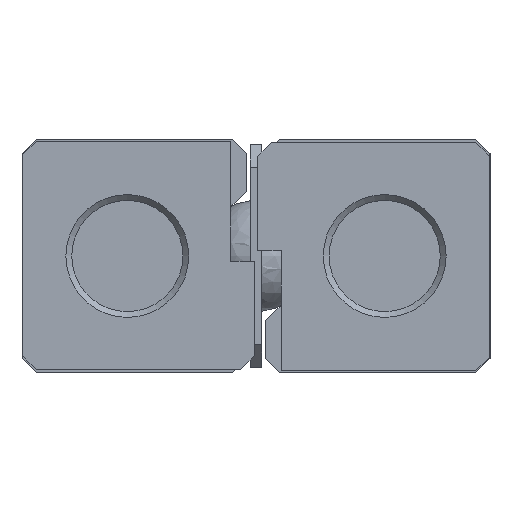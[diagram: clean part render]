
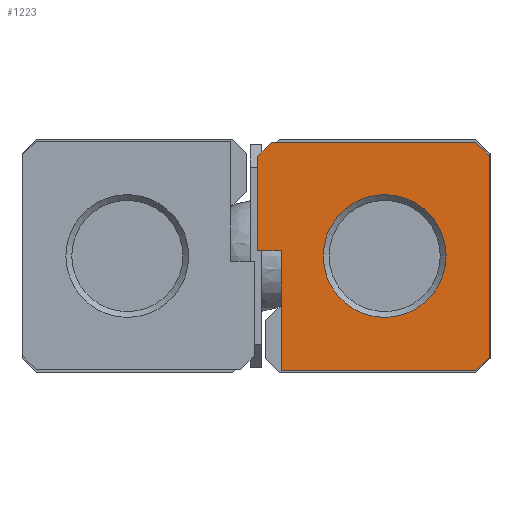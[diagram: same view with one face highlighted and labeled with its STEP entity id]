
A CAD part, left-side view. The second image highlights one B-rep face of the part: STEP entity #1223.
In plain terms, the highlighted planar face has unit normal (-1, 0, 0).
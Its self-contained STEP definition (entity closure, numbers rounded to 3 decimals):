
#68=CIRCLE('',#1333,5.25);
#229=ORIENTED_EDGE('',*,*,#486,.T.);
#230=ORIENTED_EDGE('',*,*,#468,.F.);
#231=ORIENTED_EDGE('',*,*,#485,.F.);
#232=ORIENTED_EDGE('',*,*,#483,.F.);
#233=ORIENTED_EDGE('',*,*,#481,.F.);
#234=ORIENTED_EDGE('',*,*,#479,.F.);
#235=ORIENTED_EDGE('',*,*,#477,.F.);
#236=ORIENTED_EDGE('',*,*,#475,.F.);
#237=ORIENTED_EDGE('',*,*,#473,.F.);
#238=ORIENTED_EDGE('',*,*,#471,.F.);
#468=EDGE_CURVE('',#609,#610,#733,.T.);
#471=EDGE_CURVE('',#610,#611,#736,.T.);
#473=EDGE_CURVE('',#611,#612,#738,.T.);
#475=EDGE_CURVE('',#612,#613,#740,.T.);
#477=EDGE_CURVE('',#613,#614,#742,.T.);
#479=EDGE_CURVE('',#614,#615,#744,.T.);
#481=EDGE_CURVE('',#615,#616,#746,.T.);
#483=EDGE_CURVE('',#616,#617,#748,.T.);
#485=EDGE_CURVE('',#617,#609,#750,.T.);
#486=EDGE_CURVE('',#618,#618,#68,.T.);
#609=VERTEX_POINT('',#1899);
#610=VERTEX_POINT('',#1900);
#611=VERTEX_POINT('',#1905);
#612=VERTEX_POINT('',#1909);
#613=VERTEX_POINT('',#1913);
#614=VERTEX_POINT('',#1917);
#615=VERTEX_POINT('',#1921);
#616=VERTEX_POINT('',#1925);
#617=VERTEX_POINT('',#1929);
#618=VERTEX_POINT('',#1935);
#733=LINE('',#1898,#852);
#736=LINE('',#1904,#855);
#738=LINE('',#1908,#857);
#740=LINE('',#1912,#859);
#742=LINE('',#1916,#861);
#744=LINE('',#1920,#863);
#746=LINE('',#1924,#865);
#748=LINE('',#1928,#867);
#750=LINE('',#1932,#869);
#852=VECTOR('',#1517,1000.);
#855=VECTOR('',#1522,1000.);
#857=VECTOR('',#1526,1000.);
#859=VECTOR('',#1530,1000.);
#861=VECTOR('',#1534,1000.);
#863=VECTOR('',#1538,1000.);
#865=VECTOR('',#1542,1000.);
#867=VECTOR('',#1546,1000.);
#869=VECTOR('',#1550,1000.);
#944=EDGE_LOOP('',(#229));
#945=EDGE_LOOP('',(#230,#231,#232,#233,#234,#235,#236,#237,#238));
#1061=FACE_BOUND('',#944,.T.);
#1062=FACE_BOUND('',#945,.T.);
#1174=PLANE('',#1332);
#1223=ADVANCED_FACE('',(#1061,#1062),#1174,.F.);
#1332=AXIS2_PLACEMENT_3D('',#1933,#1551,#1552);
#1333=AXIS2_PLACEMENT_3D('',#1934,#1553,#1554);
#1517=DIRECTION('',(0.,-1.,0.));
#1522=DIRECTION('',(0.,-0.707,-0.707));
#1526=DIRECTION('',(0.,0.,-1.));
#1530=DIRECTION('',(0.,0.707,-0.707));
#1534=DIRECTION('',(0.,1.,0.));
#1538=DIRECTION('',(0.,0.,1.));
#1542=DIRECTION('',(0.,1.,0.));
#1546=DIRECTION('',(0.,0.,1.));
#1550=DIRECTION('',(0.,-0.707,0.707));
#1551=DIRECTION('',(1.,0.,0.));
#1552=DIRECTION('',(0.,0.,-1.));
#1553=DIRECTION('',(1.,0.,0.));
#1554=DIRECTION('',(0.,0.,-1.));
#1898=CARTESIAN_POINT('',(0.,-1.32,9.7));
#1899=CARTESIAN_POINT('',(0.,-1.32,9.7));
#1900=CARTESIAN_POINT('',(0.,-18.78,9.7));
#1904=CARTESIAN_POINT('',(0.,-18.78,9.7));
#1905=CARTESIAN_POINT('',(0.,-19.95,8.53));
#1908=CARTESIAN_POINT('',(0.,-19.95,8.53));
#1909=CARTESIAN_POINT('',(0.,-19.95,-8.63));
#1912=CARTESIAN_POINT('',(0.,-19.95,-8.63));
#1913=CARTESIAN_POINT('',(0.,-18.78,-9.8));
#1916=CARTESIAN_POINT('',(0.,-18.78,-9.8));
#1917=CARTESIAN_POINT('',(0.,-2.15,-9.8));
#1920=CARTESIAN_POINT('',(0.,-2.15,-9.8));
#1921=CARTESIAN_POINT('',(0.,-2.15,0.45));
#1924=CARTESIAN_POINT('',(0.,-2.15,0.45));
#1925=CARTESIAN_POINT('',(0.,-0.15,0.45));
#1928=CARTESIAN_POINT('',(0.,-0.15,0.45));
#1929=CARTESIAN_POINT('',(0.,-0.15,8.53));
#1932=CARTESIAN_POINT('',(0.,-0.15,8.53));
#1933=CARTESIAN_POINT('',(0.,0.,0.));
#1934=CARTESIAN_POINT('',(0.,-11.,0.));
#1935=CARTESIAN_POINT('',(0.,-11.,-5.25));
